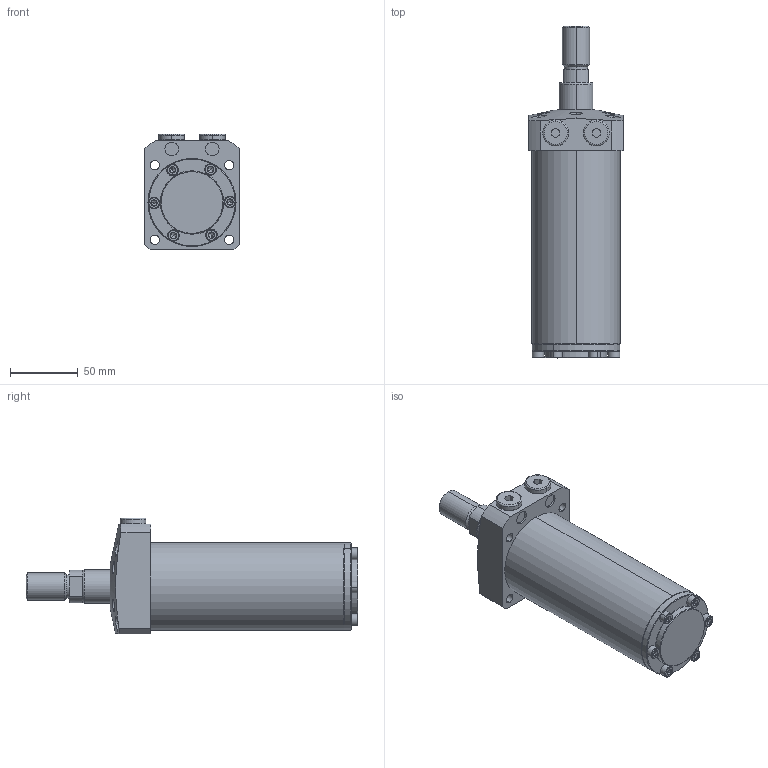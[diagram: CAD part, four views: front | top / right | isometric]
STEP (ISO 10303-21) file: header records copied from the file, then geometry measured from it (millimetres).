
FILE_DESCRIPTION (( 'STEP AP203' ), '1' );
FILE_NAME ('680650-CT-120.step', '2016-11-02T03:26:08', ( 'wxp' ), ( '' ), 'SwSTEP 2.0', 'SolidWorks 2011', '' );
FILE_SCHEMA (( 'CONFIG_CONTROL_DESIGN' ));
Length unit declared in the file: millimetre
Products named in the file (7): 680650-CT-120; 6^680650-CT-120; 5^680650-CT-120; 4^680650-CT-120; 3^680650-CT-120; 2^680650-CT-120; 1^680650-CT-120
Assembly tree (17 placements, depth 2):
  680650-CT-120
    5^680650-CT-120  x2
    2^680650-CT-120
    3^680650-CT-120  x6
    4^680650-CT-120  x6
    1^680650-CT-120
    6^680650-CT-120
Bounding box: 70 x 245 x 85.5 mm (x, y, z)
Volume: 685511.5 mm3; surface area: 89882 mm2
Topology: 17 solids, 17 shells, 548 faces, 1034 edges, 541 vertices
Faces by surface type: plane 235, cone 168, cylinder 129, torus 16
Entity records: 7489 total; most frequent: CARTESIAN_POINT 1816, DIRECTION 1071, ORIENTED_EDGE 872, AXIS2_PLACEMENT_3D 447, EDGE_CURVE 436, VERTEX_POINT 259, EDGE_LOOP 255, CIRCLE 215
